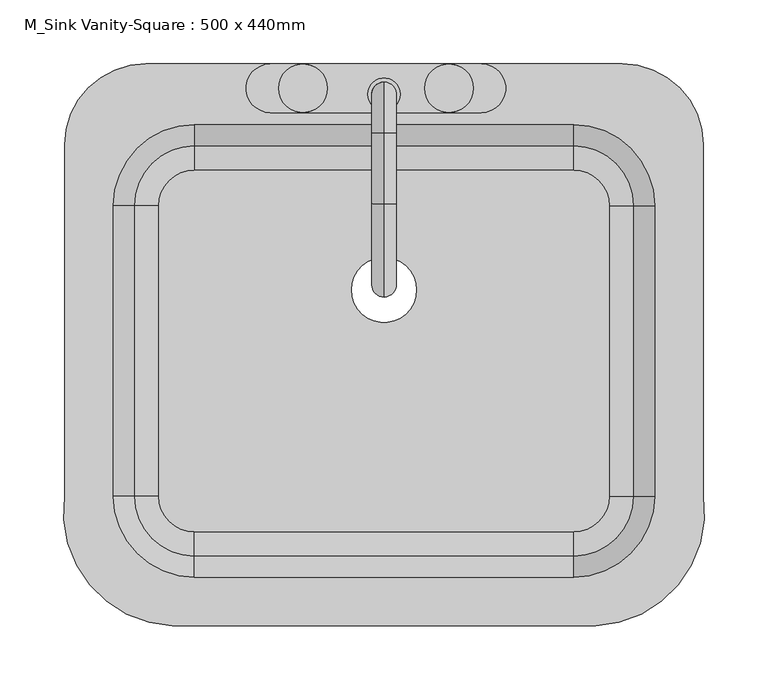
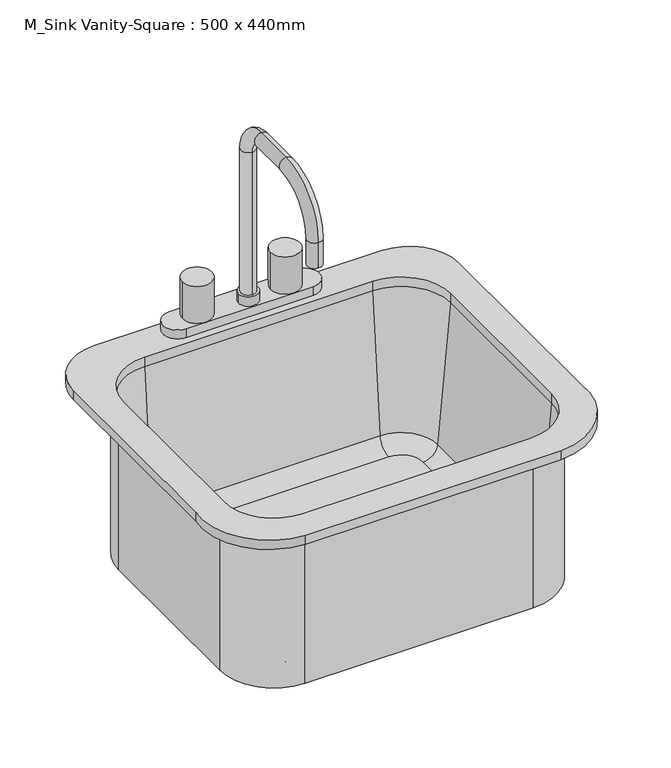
"""IFC4 building model written with IfcOpenShell, lengths in millimetres: flow terminal geometry, M_Sink Vanity-Square : 500 x 440mm."""

import ifcopenshell
import ifcopenshell.guid

model = None  # the IFC model being written
_history = None  # IfcOwnerHistory: only IFC2X3 demands one
_inside = {}  # id of a spatial element -> (the spatial element, [elements in it])
_under = {}  # id of a project, library or spatial element -> (it, [spatial elements below it])
_declared = {}  # id of a project -> (the project, [libraries it declares])
_typed = {}  # id of a type object -> (the type object, [elements of that type])
_made_of = {}  # id of a material, layer set ... -> (it, [elements and type objects made of it])


def new_model(schema):
    """Start an empty IFC model of exactly this schema.

    Asked for "IFC4X3", IfcOpenShell would pick the latest addendum, in which some entities
    have other attributes; the version numbers below select the first issue.
    IFC2X3 requires an IfcOwnerHistory on every rooted entity: one is made here for all.
    """
    global model, _history
    if schema == "IFC4X3":
        model = ifcopenshell.file(schema_version=(4, 3, 0, 0))
    else:
        model = ifcopenshell.file(schema=schema)
    _inside.clear()
    _under.clear()
    _declared.clear()
    _typed.clear()
    _made_of.clear()
    _history = None
    if model.schema == "IFC2X3":
        org = make("IfcOrganization", Name="unknown")
        user = make(
            "IfcPersonAndOrganization",
            ThePerson=make("IfcPerson", FamilyName="unknown"),
            TheOrganization=org,
        )
        app = make(
            "IfcApplication",
            ApplicationDeveloper=org,
            Version="unknown",
            ApplicationFullName="unknown",
            ApplicationIdentifier="unknown",
        )
        _history = make(
            "IfcOwnerHistory",
            OwningUser=user,
            OwningApplication=app,
            ChangeAction="ADDED",
            CreationDate=0,
        )
    return model


def make(cls, **values):
    """One entity of the class cls with the attributes given. An attribute that is None is left unset."""
    return model.create_entity(
        cls, **{name: value for name, value in values.items() if value is not None}
    )


def rooted(cls, **values):
    """An entity with a GlobalId (a new one), such as an element, a storey or a relation."""
    return make(cls, GlobalId=ifcopenshell.guid.new(), OwnerHistory=_history, **values)


def si_unit(unit_type, name, prefix=None):
    """IfcSIUnit, for example si_unit("LENGTHUNIT", "METRE", prefix="MILLI")."""
    return make("IfcSIUnit", UnitType=unit_type, Prefix=prefix, Name=name)


def assignment(units):
    """IfcUnitAssignment: the units of a project."""
    return None if units is None else make("IfcUnitAssignment", Units=units)


def point(xyz):
    """IfcCartesianPoint."""
    return None if xyz is None else make("IfcCartesianPoint", Coordinates=xyz)


def direction(xyz):
    """IfcDirection."""
    return None if xyz is None else make("IfcDirection", DirectionRatios=xyz)


def frame(location, z_axis=None, x_axis=None):
    """IfcAxis2Placement3D, a coordinate frame: its origin and axes. An axis left out is left unset."""
    return make(
        "IfcAxis2Placement3D",
        Location=point(location),
        Axis=direction(z_axis),
        RefDirection=direction(x_axis),
    )


def origin():
    """The frame at (0, 0, 0) with its axes left unset."""
    return frame((0.0, 0.0, 0.0))


def place(relative_to, where):
    """IfcLocalPlacement: puts the frame where relative to a parent placement (None: the world)."""
    return make(
        "IfcLocalPlacement", PlacementRelTo=relative_to, RelativePlacement=where
    )


def context(
    kind, dimensions, precision=None, world=None, true_north=None, identifier=None
):
    """IfcGeometricRepresentationContext, for example the 3D "Model" context."""
    return make(
        "IfcGeometricRepresentationContext",
        ContextIdentifier=identifier,
        ContextType=kind,
        CoordinateSpaceDimension=dimensions,
        Precision=precision,
        WorldCoordinateSystem=world,
        TrueNorth=true_north,
    )


def project(units=None, contexts=None):
    """IfcProject with its units and contexts."""
    return rooted(
        "IfcProject",
        Name="project",
        RepresentationContexts=contexts,
        UnitsInContext=assignment(units),
    )


def spatial(cls, under=None, at=None, **own):
    """A site, building, storey or space (cls), placed at a placement, below another one or the project."""
    s = rooted(cls, ObjectPlacement=at, **own)
    if under is not None:
        _under.setdefault(under.id(), (under, []))[1].append(s)
    return s


def polyline(points):
    """IfcPolyline through the points."""
    return make("IfcPolyline", Points=[point(p) for p in points])


def circle_curve(where, radius):
    """IfcCircle in the frame where."""
    return make("IfcCircle", Position=where, Radius=radius)


def ellipse_curve(where, semi_axis1, semi_axis2):
    """IfcEllipse in the frame where."""
    return make(
        "IfcEllipse", Position=where, SemiAxis1=semi_axis1, SemiAxis2=semi_axis2
    )


def trimmed(basis, trim1, trim2, sense, master):
    """IfcTrimmedCurve: the piece of a basis curve between two trims."""
    return make(
        "IfcTrimmedCurve",
        BasisCurve=basis,
        Trim1=trim1,
        Trim2=trim2,
        SenseAgreement=sense,
        MasterRepresentation=master,
    )


def shape(context_of_items, identifier, shape_type, items):
    """IfcShapeRepresentation: the items that make up one representation, for example the "Body"."""
    return make(
        "IfcShapeRepresentation",
        ContextOfItems=context_of_items,
        RepresentationIdentifier=identifier,
        RepresentationType=shape_type,
        Items=items,
    )


def source(mapping_origin, context_of_items, identifier, shape_type, items):
    """IfcRepresentationMap: a shape defined once, which mapped items show again and again."""
    return make(
        "IfcRepresentationMap",
        MappingOrigin=mapping_origin,
        MappedRepresentation=shape(context_of_items, identifier, shape_type, items),
    )


def transform(
    local_origin,
    x_axis=None,
    y_axis=None,
    z_axis=None,
    scale=None,
    scale2=None,
    scale3=None,
    uniform=True,
):
    """IfcCartesianTransformationOperator3D, or its non-uniform kind. x_axis, y_axis, z_axis: its Axis1, 2, 3."""
    if uniform:
        return make(
            "IfcCartesianTransformationOperator3D",
            Axis1=direction(x_axis),
            Axis2=direction(y_axis),
            LocalOrigin=point(local_origin),
            Scale=scale,
            Axis3=direction(z_axis),
        )
    return make(
        "IfcCartesianTransformationOperator3DnonUniform",
        Axis1=direction(x_axis),
        Axis2=direction(y_axis),
        LocalOrigin=point(local_origin),
        Scale=scale,
        Axis3=direction(z_axis),
        Scale2=scale2,
        Scale3=scale3,
    )


def mapped(mapping_source, mapping_target):
    """IfcMappedItem: shows the shape of a source again, moved by a transform."""
    return make(
        "IfcMappedItem", MappingSource=mapping_source, MappingTarget=mapping_target
    )


def made_of(thing, what):
    """Note that an element or type object is made of a material, layer set ...; save() writes the relation."""
    if what is not None:
        _made_of.setdefault(what.id(), (what, []))[1].append(thing)
    return thing


def element(
    cls,
    number,
    at=None,
    inside=None,
    cuts=None,
    type_object=None,
    material=None,
    context=None,
    identifier="Body",
    shape_type=None,
    held_by="IfcProductDefinitionShape",
    body=None,
    shapes=None,
    **own,
):
    """One element of the class cls, such as IfcWall. Its Tag is "e" and its number.

    at: its placement. inside: the storey or other place that contains it. cuts: it is an
    opening in that element (IfcRelVoidsElement). A single representation is given by context,
    identifier, shape_type and body (its items); several are given by shapes. held_by: the class
    of the entity that holds the representations. save() writes the other relations.
    """
    e = rooted(cls, Tag="e%d" % number, ObjectPlacement=at, **own)
    if body is not None:
        shapes = [shape(context, identifier, shape_type, body)]
    if shapes is not None:
        e.Representation = make(held_by, Representations=shapes)
    if inside is not None:
        _inside.setdefault(inside.id(), (inside, []))[1].append(e)
    if cuts is not None:
        rooted(
            "IfcRelVoidsElement", RelatingBuildingElement=cuts, RelatedOpeningElement=e
        )
    if type_object is not None:
        _typed.setdefault(type_object.id(), (type_object, []))[1].append(e)
    return made_of(e, material)


def aggregate(whole, parts):
    """IfcRelAggregates: a whole, such as a stair, and the parts it consists of."""
    return rooted("IfcRelAggregates", RelatingObject=whole, RelatedObjects=parts)


def save(model, path):
    """Write the relations noted so far, then the file.

    IfcRelAggregates (storeys below a building ...), IfcRelContainedInSpatialStructure (elements
    in a storey), IfcRelDefinesByType, IfcRelAssociatesMaterial and IfcRelDeclares: one each for
    every whole, place, type object, material and project.
    """
    for whole, parts in _under.values():
        aggregate(whole, parts)
    for where, things in _inside.values():
        rooted(
            "IfcRelContainedInSpatialStructure",
            RelatedElements=things,
            RelatingStructure=where,
        )
    for kind, things in _typed.values():
        rooted("IfcRelDefinesByType", RelatedObjects=things, RelatingType=kind)
    for what, things in _made_of.values():
        rooted("IfcRelAssociatesMaterial", RelatedObjects=things, RelatingMaterial=what)
    for by, libraries in _declared.values():
        rooted("IfcRelDeclares", RelatingContext=by, RelatedDefinitions=libraries)
    model.write(path)


def plane_surface(at):
    """IfcPlane: the flat surface through the origin of the frame at, square to its z axis."""
    return make("IfcPlane", Position=at)


def cylinder_surface(at, radius):
    """IfcCylindricalSurface: all points at the distance radius from the z axis of the frame at."""
    return make("IfcCylindricalSurface", Position=at, Radius=radius)


def revolved_surface(curve, axis_point, axis_direction):
    """IfcSurfaceOfRevolution: the curve turned about the line through axis_point along axis_direction."""
    return make(
        "IfcSurfaceOfRevolution",
        SweptCurve=make("IfcArbitraryOpenProfileDef", ProfileType="CURVE", Curve=curve),
        AxisPosition=make("IfcAxis1Placement", Location=point(axis_point), Axis=direction(axis_direction)),
    )


def advanced_brep(points, edges, surfaces, faces):
    """IfcAdvancedBrep: a solid bounded by faces that lie on surfaces and meet in shared edges.

    An edge is (start, end): straight between two places in points (the first is 0);
    or (start, end, curve); or (start, end, curve, False) where it runs against its curve.
    A face is (place in surfaces, loops), or (place, loops, False) where it looks against
    its surface's normal. A loop lists edges by number (the first is 1), with a minus sign
    where the edge is run from its end to its start. The first loop is the outer one.
    """
    corners = [point(p) for p in points]
    vertices = [make("IfcVertexPoint", VertexGeometry=c) for c in corners]
    made = []
    for start, end, *more in edges:
        made.append(
            make(
                "IfcEdgeCurve",
                EdgeStart=vertices[start],
                EdgeEnd=vertices[end],
                EdgeGeometry=more[0] if more else make("IfcPolyline", Points=[corners[start], corners[end]]),
                SameSense=more[1] if len(more) > 1 else True,
            )
        )
    hull = []
    for where, loops, *sense in faces:
        bounds = []
        for j, loop in enumerate(loops):
            ring = [make("IfcOrientedEdge", EdgeElement=made[abs(k) - 1], Orientation=k > 0) for k in loop]
            bounds.append(
                make(
                    "IfcFaceOuterBound" if j == 0 else "IfcFaceBound",
                    Bound=make("IfcEdgeLoop", EdgeList=ring),
                    Orientation=True,
                )
            )
        hull.append(make("IfcAdvancedFace", Bounds=bounds, FaceSurface=surfaces[where], SameSense=sense[0] if sense else True))
    return make("IfcAdvancedBrep", Outer=make("IfcClosedShell", CfsFaces=hull))


def m_sink_vanity_square_500_x_440mm_1e229b74(model_context):
    return source(origin(), model_context, "Body", "AdvancedBrep", [
        advanced_brep(
        [(233.9392406, 69.0204011, 534.1), (164.0892406, 138.8704011, 534.1), (164.0892406, 138.8704011, 750.0), (233.9392406, 69.0204011, 750.0), (233.9392406, -158.2545989, 534.1), (164.0892406, -228.1045989, 534.1), (-132.7107594, -228.1045989, 534.1), (-202.5607594, -158.2545989, 534.1), (-202.5607594, 69.0204011, 534.1), (-132.7107594, 138.8704011, 534.1), (-9.7107594, 3.175, 534.1), (41.0892406, 3.175, 534.1), (192.0776588, 69.0204011, 543.625), (164.0892406, 97.0088193, 543.625), (-132.7107594, 97.0088193, 543.625), (-160.6991776, 69.0204011, 543.625), (-160.6991776, -158.2545989, 543.625), (-132.7107594, -186.2430171, 543.625), (164.0892406, -186.2430171, 543.625), (192.0776588, -158.2545989, 543.625), (-9.7107594, 3.175, 543.625), (41.0892406, 3.175, 543.625), (211.0551678, 69.0204011, 561.0146831), (164.0892406, 115.9863283, 561.0146831), (227.5892406, 69.0204011, 750.0), (164.0892406, 132.5204011, 750.0), (233.9392406, -158.2545989, 750.0), (211.0551678, -158.2545989, 561.0146831), (227.5892406, -158.2545989, 750.0), (164.0892406, -228.1045989, 750.0), (164.0892406, -205.2205261, 561.0146831), (164.0892406, -221.7545989, 750.0), (-132.7107594, -228.1045989, 750.0), (-132.7107594, -205.2205261, 561.0146831), (-132.7107594, -221.7545989, 750.0), (-202.5607594, -158.2545989, 750.0), (-179.6766866, -158.2545989, 561.0146831), (-196.2107594, -158.2545989, 750.0), (-202.5607594, 69.0204011, 750.0), (-179.6766866, 69.0204011, 561.0146831), (-196.2107594, 69.0204011, 750.0), (-132.7107594, 138.8704011, 750.0), (-132.7107594, 115.9863283, 561.0146831), (-132.7107594, 132.5204011, 750.0), (-149.9606923, -259.8545989, 762.7), (181.3391735, -259.8545989, 762.7), (265.6892406, -158.2545989, 762.7), (265.6892406, 116.6454011, 762.7), (202.1892406, 180.1454011, 762.7), (-170.8107593, 180.1454011, 762.7), (-234.3107593, 116.6454011, 762.7), (-234.3107593, -158.2545982, 762.7), (164.0892406, 132.5204011, 762.7), (227.5892406, 69.0204011, 762.7), (227.5892406, -158.2545989, 762.7), (164.0892406, -221.7545989, 762.7), (-132.7107594, -221.7545989, 762.7), (-196.2107594, -158.2545989, 762.7), (-196.2107594, 69.0204011, 762.7), (-132.7107594, 132.5204011, 762.7), (-149.9606923, -259.8545989, 750.0), (-234.3107593, -158.2545982, 750.0), (-234.3107593, 116.6454011, 750.0), (-170.8107593, 180.1454011, 750.0), (202.1892406, 180.1454011, 750.0), (265.6892406, 116.6454011, 750.0), (265.6892406, -158.2545989, 750.0), (181.3391735, -259.8545989, 750.0)],
        [
            (0, 1, circle_curve(frame((164.0892406, 69.0204011, 534.1), z_axis=(0.0, 0.0, 1.0), x_axis=(0.0, 1.0, 0.0)), 69.85)),
            (1, 2),
            (2, 3, circle_curve(frame((164.0892406, 69.0204011, 750.0), z_axis=(0.0, 0.0, -1.0), x_axis=(0.0, 1.0, 0.0)), 69.85)),
            (3, 0),
            (0, 4),
            (4, 5, circle_curve(frame((164.0892406, -158.2545989, 534.1), z_axis=(0.0, 0.0, -1.0), x_axis=(1.0, 0.0, 0.0)), 69.85)),
            (5, 6),
            (6, 7, circle_curve(frame((-132.7107594, -158.2545989, 534.1), z_axis=(0.0, 0.0, -1.0), x_axis=(0.0, -1.0, 0.0)), 69.85)),
            (7, 8),
            (8, 9, circle_curve(frame((-132.7107594, 69.0204011, 534.1), z_axis=(0.0, 0.0, -1.0), x_axis=(-1.0, 0.0, 0.0)), 69.85)),
            (9, 1),
            (10, 11, circle_curve(frame((15.6892406, 3.175, 534.1), z_axis=(0.0, 0.0, 1.0), x_axis=(1.0, 0.0, 0.0)), 25.4)),
            (11, 10, circle_curve(frame((15.6892406, 3.175, 534.1), z_axis=(0.0, 0.0, 1.0), x_axis=(1.0, 0.0, 0.0)), 25.4)),
            (12, 13, circle_curve(frame((164.0892406, 69.0204011, 543.625), z_axis=(0.0, 0.0, 1.0), x_axis=(0.0, 1.0, 0.0)), 27.9884182)),
            (13, 14),
            (14, 15, circle_curve(frame((-132.7107594, 69.0204011, 543.625), z_axis=(0.0, 0.0, 1.0), x_axis=(-1.0, 0.0, 0.0)), 27.9884182)),
            (15, 16),
            (16, 17, circle_curve(frame((-132.7107594, -158.2545989, 543.625), z_axis=(0.0, 0.0, 1.0), x_axis=(0.0, -1.0, 0.0)), 27.9884182)),
            (17, 18),
            (18, 19, circle_curve(frame((164.0892406, -158.2545989, 543.625), z_axis=(0.0, 0.0, 1.0), x_axis=(1.0, 0.0, 0.0)), 27.9884182)),
            (19, 12),
            (20, 21, circle_curve(frame((15.6892406, 3.175, 543.625), z_axis=(0.0, 0.0, -1.0), x_axis=(1.0, 0.0, 0.0)), 25.4)),
            (21, 20, circle_curve(frame((15.6892406, 3.175, 543.625), z_axis=(0.0, 0.0, -1.0), x_axis=(1.0, 0.0, 0.0)), 25.4)),
            (12, 22, circle_curve(frame((192.0776588, 69.0204011, 562.675), z_axis=(0.0, -1.0, 0.0), x_axis=(1.0, 0.0, 0.0)), 19.05)),
            (22, 23, circle_curve(frame((164.0892406, 69.0204011, 561.0146831), z_axis=(0.0, 0.0, 1.0), x_axis=(0.0, 1.0, 0.0)), 46.9659272)),
            (23, 13, circle_curve(frame((164.0892406, 97.0088193, 562.675), z_axis=(-1.0, 0.0, 0.0), x_axis=(0.0, 1.0, 0.0)), 19.05)),
            (22, 24),
            (24, 25, circle_curve(frame((164.0892406, 69.0204011, 750.0), z_axis=(0.0, 0.0, 1.0), x_axis=(0.0, 1.0, 0.0)), 63.5)),
            (25, 23),
            (3, 26),
            (26, 4),
            (19, 27, circle_curve(frame((192.0776588, -158.2545989, 562.675), z_axis=(0.0, -1.0, 0.0), x_axis=(1.0, 0.0, 0.0)), 19.05)),
            (27, 22),
            (27, 28),
            (28, 24),
            (26, 29, circle_curve(frame((164.0892406, -158.2545989, 750.0), z_axis=(0.0, 0.0, -1.0), x_axis=(1.0, 0.0, 0.0)), 69.85)),
            (29, 5),
            (18, 30, circle_curve(frame((164.0892406, -186.2430171, 562.675), z_axis=(-1.0, 0.0, 0.0), x_axis=(0.0, -1.0, 0.0)), 19.05)),
            (30, 27, circle_curve(frame((164.0892406, -158.2545989, 561.0146831), z_axis=(0.0, 0.0, 1.0), x_axis=(1.0, 0.0, 0.0)), 46.9659272)),
            (30, 31),
            (31, 28, circle_curve(frame((164.0892406, -158.2545989, 750.0), z_axis=(0.0, 0.0, 1.0), x_axis=(1.0, 0.0, 0.0)), 63.5)),
            (29, 32),
            (32, 6),
            (17, 33, circle_curve(frame((-132.7107594, -186.2430171, 562.675), z_axis=(-1.0, 0.0, 0.0), x_axis=(0.0, -1.0, 0.0)), 19.05)),
            (33, 30),
            (33, 34),
            (34, 31),
            (32, 35, circle_curve(frame((-132.7107594, -158.2545989, 750.0), z_axis=(0.0, 0.0, -1.0), x_axis=(0.0, -1.0, 0.0)), 69.85)),
            (35, 7),
            (16, 36, circle_curve(frame((-160.6991776, -158.2545989, 562.675), z_axis=(0.0, 1.0, 0.0), x_axis=(-1.0, 0.0, 0.0)), 19.05)),
            (36, 33, circle_curve(frame((-132.7107594, -158.2545989, 561.0146831), z_axis=(0.0, 0.0, 1.0), x_axis=(0.0, -1.0, 0.0)), 46.9659272)),
            (36, 37),
            (37, 34, circle_curve(frame((-132.7107594, -158.2545989, 750.0), z_axis=(0.0, 0.0, 1.0), x_axis=(0.0, -1.0, 0.0)), 63.5)),
            (35, 38),
            (38, 8),
            (15, 39, circle_curve(frame((-160.6991776, 69.0204011, 562.675), z_axis=(0.0, 1.0, 0.0), x_axis=(-1.0, 0.0, 0.0)), 19.05)),
            (39, 36),
            (39, 40),
            (40, 37),
            (38, 41, circle_curve(frame((-132.7107594, 69.0204011, 750.0), z_axis=(0.0, 0.0, -1.0), x_axis=(-1.0, 0.0, 0.0)), 69.85)),
            (41, 9),
            (14, 42, circle_curve(frame((-132.7107594, 97.0088193, 562.675), z_axis=(1.0, 0.0, 0.0), x_axis=(0.0, 1.0, 0.0)), 19.05)),
            (42, 39, circle_curve(frame((-132.7107594, 69.0204011, 561.0146831), z_axis=(0.0, 0.0, 1.0), x_axis=(-1.0, 0.0, 0.0)), 46.9659272)),
            (42, 43),
            (43, 40, circle_curve(frame((-132.7107594, 69.0204011, 750.0), z_axis=(0.0, 0.0, 1.0), x_axis=(-1.0, 0.0, 0.0)), 63.5)),
            (41, 2),
            (23, 42),
            (25, 43),
            (20, 10),
            (11, 21),
            (44, 45),
            (45, 46, circle_curve(frame((177.5319557, -170.8793432, 762.7), z_axis=(0.0, 0.0, 1.0), x_axis=(1.0, 0.0, 0.0)), 89.0566732)),
            (46, 47),
            (47, 48, circle_curve(frame((202.1892406, 116.6454011, 762.7), z_axis=(0.0, 0.0, 1.0), x_axis=(1.0, 0.0, 0.0)), 63.5)),
            (48, 49),
            (49, 50, circle_curve(frame((-170.8107593, 116.6454011, 762.7), z_axis=(0.0, 0.0, 1.0), x_axis=(1.0, 0.0, 0.0)), 63.5)),
            (50, 51),
            (51, 44, circle_curve(frame((-146.1534746, -170.8793432, 762.7), z_axis=(0.0, 0.0, 1.0), x_axis=(1.0, 0.0, 0.0)), 89.0566732)),
            (52, 53, circle_curve(frame((164.0892406, 69.0204011, 762.7), z_axis=(0.0, 0.0, -1.0), x_axis=(1.0, 0.0, 0.0)), 63.5)),
            (53, 54),
            (54, 55, circle_curve(frame((164.0892406, -158.2545989, 762.7), z_axis=(0.0, 0.0, -1.0), x_axis=(1.0, 0.0, 0.0)), 63.5)),
            (55, 56),
            (56, 57, circle_curve(frame((-132.7107594, -158.2545989, 762.7), z_axis=(0.0, 0.0, -1.0), x_axis=(1.0, 0.0, 0.0)), 63.5)),
            (57, 58),
            (58, 59, circle_curve(frame((-132.7107594, 69.0204011, 762.7), z_axis=(0.0, 0.0, -1.0), x_axis=(1.0, 0.0, 0.0)), 63.5)),
            (59, 52),
            (60, 61, circle_curve(frame((-146.1534746, -170.8793432, 750.0), z_axis=(0.0, 0.0, -1.0), x_axis=(1.0, 0.0, 0.0)), 89.0566732)),
            (61, 62),
            (62, 63, circle_curve(frame((-170.8107593, 116.6454011, 750.0), z_axis=(0.0, 0.0, -1.0), x_axis=(1.0, 0.0, 0.0)), 63.5)),
            (63, 64),
            (64, 65, circle_curve(frame((202.1892406, 116.6454011, 750.0), z_axis=(0.0, 0.0, -1.0), x_axis=(1.0, 0.0, 0.0)), 63.5)),
            (65, 66),
            (66, 67, circle_curve(frame((177.5319557, -170.8793432, 750.0), z_axis=(0.0, 0.0, -1.0), x_axis=(1.0, 0.0, 0.0)), 89.0566732)),
            (67, 60),
            (44, 60),
            (67, 45),
            (66, 46),
            (65, 47),
            (64, 48),
            (63, 49),
            (62, 50),
            (61, 51),
            (52, 25),
            (24, 53),
            (28, 54),
            (31, 55),
            (34, 56),
            (37, 57),
            (40, 58),
            (43, 59),
        ],
        [
            cylinder_surface(frame((164.0892406, 69.0204011, 0.0), z_axis=(0.0, 0.0, -1.0), x_axis=(0.0, 1.0, 0.0)), 69.85),
            plane_surface(frame((164.0892406, 69.0204011, 534.1), z_axis=(0.0, 0.0, -1.0), x_axis=(0.0, 1.0, 0.0))),
            plane_surface(frame((164.0892406, 69.0204011, 543.625), z_axis=(0.0, 0.0, 1.0), x_axis=(0.0, 1.0, 0.0))),
            revolved_surface(trimmed(ellipse_curve(frame((164.0892406, 97.0088193, 562.675), z_axis=(1.0, 0.0, 0.0), x_axis=(0.0, 1.0, 0.0)), 19.05, 19.05), [point((164.0892406, 97.0088193, 543.625))], [point((164.0892406, 115.9863283, 561.0146831))], True, "CARTESIAN"), (164.0892406, 69.0204011, 0.0), (0.0, 0.0, -1.0)),
            revolved_surface(polyline([(164.0892406, 115.9863283, 561.0146831), (164.0892406, 132.5204011, 750.0)]), (164.0892406, 69.0204011, 0.0), (0.0, 0.0, -1.0)),
            plane_surface(frame((233.9392406, 69.0204011, 750.0), z_axis=(1.0, 0.0, 0.0), x_axis=(0.0, -1.0, 0.0))),
            revolved_surface(polyline([(211.1276588, -158.25459889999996, 562.675), (211.1276588, 69.0204011, 562.675)]), (192.0776588, 69.0204011, 562.675), (0.0, -1.0, 0.0)),
            plane_surface(frame((211.0551678, 69.0204011, 561.0146831), z_axis=(-0.9961946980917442, 0.0, 0.0871557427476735), x_axis=(0.0, -1.0, 0.0))),
            cylinder_surface(frame((164.0892406, -158.2545989, 0.0), z_axis=(0.0, 0.0, -1.0), x_axis=(1.0, 0.0, 0.0)), 69.85),
            revolved_surface(trimmed(ellipse_curve(frame((192.0776588, -158.2545989, 562.675), z_axis=(0.0, -1.0, 0.0), x_axis=(1.0, 0.0, 0.0)), 19.05, 19.05), [point((192.0776588, -158.2545989, 543.625))], [point((211.0551678, -158.2545989, 561.0146831))], True, "CARTESIAN"), (164.0892406, -158.2545989, 0.0), (0.0, 0.0, -1.0)),
            revolved_surface(polyline([(211.0551678, -158.2545989, 561.0146831), (227.5892406, -158.2545989, 750.0)]), (164.0892406, -158.2545989, 0.0), (0.0, 0.0, -1.0)),
            plane_surface(frame((164.0892406, -228.1045989, 750.0), z_axis=(0.0, -1.0, 0.0), x_axis=(-1.0, 0.0, 0.0))),
            revolved_surface(polyline([(-132.7107594, -205.29301710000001, 562.675), (164.0892406, -205.29301710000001, 562.675)]), (164.0892406, -186.2430171, 562.675), (-1.0, 0.0, 0.0)),
            plane_surface(frame((164.0892406, -205.2205261, 561.0146831), z_axis=(0.0, 0.9961946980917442, 0.0871557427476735), x_axis=(-1.0, 0.0, 0.0))),
            cylinder_surface(frame((-132.7107594, -158.2545989, 0.0), z_axis=(0.0, 0.0, -1.0), x_axis=(0.0, -1.0, 0.0)), 69.85),
            revolved_surface(trimmed(ellipse_curve(frame((-132.7107594, -186.2430171, 562.675), z_axis=(-1.0, 0.0, 0.0), x_axis=(0.0, -1.0, 0.0)), 19.05, 19.05), [point((-132.7107594, -186.2430171, 543.625))], [point((-132.7107594, -205.2205261, 561.0146831))], True, "CARTESIAN"), (-132.7107594, -158.2545989, 0.0), (0.0, 0.0, -1.0)),
            revolved_surface(polyline([(-132.7107594, -205.2205261, 561.0146831), (-132.7107594, -221.7545989, 750.0)]), (-132.7107594, -158.2545989, 0.0), (0.0, 0.0, -1.0)),
            plane_surface(frame((-202.5607594, -158.2545989, 750.0), z_axis=(-1.0, 0.0, 0.0), x_axis=(0.0, 1.0, 0.0))),
            revolved_surface(polyline([(-179.74917760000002, 69.02040109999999, 562.675), (-179.74917760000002, -158.2545989, 562.675)]), (-160.6991776, -158.2545989, 562.675), (0.0, 1.0, 0.0)),
            plane_surface(frame((-179.6766866, -158.2545989, 561.0146831), z_axis=(0.9961946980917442, 0.0, 0.0871557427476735), x_axis=(0.0, 1.0, 0.0))),
            cylinder_surface(frame((-132.7107594, 69.0204011, 0.0), z_axis=(0.0, 0.0, -1.0), x_axis=(-1.0, 0.0, 0.0)), 69.85),
            revolved_surface(trimmed(ellipse_curve(frame((-160.6991776, 69.0204011, 562.675), z_axis=(0.0, 1.0, 0.0), x_axis=(-1.0, 0.0, 0.0)), 19.05, 19.05), [point((-160.6991776, 69.0204011, 543.625))], [point((-179.6766866, 69.0204011, 561.0146831))], True, "CARTESIAN"), (-132.7107594, 69.0204011, 0.0), (0.0, 0.0, -1.0)),
            revolved_surface(polyline([(-179.6766866, 69.0204011, 561.0146831), (-196.2107594, 69.0204011, 750.0)]), (-132.7107594, 69.0204011, 0.0), (0.0, 0.0, -1.0)),
            plane_surface(frame((-132.7107594, 138.8704011, 750.0), z_axis=(0.0, 1.0, 0.0), x_axis=(1.0, 0.0, 0.0))),
            revolved_surface(polyline([(164.0892406, 116.0588193, 562.675), (-132.7107594, 116.0588193, 562.675)]), (-132.7107594, 97.0088193, 562.675), (1.0, 0.0, 0.0)),
            plane_surface(frame((-132.7107594, 115.9863283, 561.0146831), z_axis=(0.0, -0.9961946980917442, 0.0871557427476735), x_axis=(1.0, 0.0, 0.0))),
            revolved_surface(polyline([(41.0892406, 3.175, 534.1), (41.0892406, 3.175, 543.625)]), (15.6892406, 3.175, 0.0), (0.0, 0.0, -1.0)),
            plane_surface(frame((181.3391735, -259.8545989, 762.7), z_axis=(0.0, 0.0, 1.0), x_axis=(1.0, 0.0, 0.0))),
            plane_surface(frame((181.3391735, -259.8545989, 750.0), z_axis=(0.0, 0.0, -1.0), x_axis=(-1.0, 0.0, 0.0))),
            plane_surface(frame((-149.9606923, -259.8545989, 762.7), z_axis=(0.0, -1.0, 0.0), x_axis=(0.0, 0.0, -1.0))),
            cylinder_surface(frame((177.5319557, -170.8793432, 750.0), z_axis=(0.0, 0.0, 1.0), x_axis=(1.0, 0.0, 0.0)), 89.0566732),
            plane_surface(frame((265.6892406, -158.2545989, 762.7), z_axis=(1.0, 0.0, 0.0), x_axis=(0.0, 0.0, -1.0))),
            cylinder_surface(frame((202.1892406, 116.6454011, 750.0), z_axis=(0.0, 0.0, 1.0), x_axis=(1.0, 0.0, 0.0)), 63.5),
            plane_surface(frame((202.1892406, 180.1454011, 762.7), z_axis=(0.0, 1.0, 0.0), x_axis=(0.0, 0.0, -1.0))),
            cylinder_surface(frame((-170.8107593, 116.6454011, 750.0), z_axis=(0.0, 0.0, 1.0), x_axis=(1.0, 0.0, 0.0)), 63.5),
            plane_surface(frame((-234.3107593, 116.6454011, 762.7), z_axis=(-1.0, 0.0, 0.0), x_axis=(0.0, 0.0, -1.0))),
            cylinder_surface(frame((-146.1534746, -170.8793432, 750.0), z_axis=(0.0, 0.0, 1.0), x_axis=(1.0, 0.0, 0.0)), 89.0566732),
            revolved_surface(polyline([(227.5892406, 69.0204011, 750.0), (227.5892406, 69.0204011, 762.7)]), (164.0892406, 69.0204011, 0.0), (0.0, 0.0, -1.0)),
            plane_surface(frame((227.5892406, 69.0204011, 762.7), z_axis=(-1.0, 0.0, 0.0), x_axis=(0.0, 0.0, -1.0))),
            revolved_surface(polyline([(227.5892406, -158.2545989, 750.0), (227.5892406, -158.2545989, 762.7)]), (164.0892406, -158.2545989, 0.0), (0.0, 0.0, -1.0)),
            plane_surface(frame((164.0892406, -221.7545989, 762.7), z_axis=(0.0, 1.0, 0.0), x_axis=(0.0, 0.0, -1.0))),
            revolved_surface(polyline([(-69.2107594, -158.2545989, 750.0), (-69.2107594, -158.2545989, 762.7)]), (-132.7107594, -158.2545989, 0.0), (0.0, 0.0, -1.0)),
            plane_surface(frame((-196.2107594, -158.2545989, 762.7), z_axis=(1.0, 0.0, 0.0), x_axis=(0.0, 0.0, -1.0))),
            revolved_surface(polyline([(-69.2107594, 69.0204011, 750.0), (-69.2107594, 69.0204011, 762.7)]), (-132.7107594, 69.0204011, 0.0), (0.0, 0.0, -1.0)),
            plane_surface(frame((-132.7107594, 132.5204011, 762.7), z_axis=(0.0, -1.0, 0.0), x_axis=(0.0, 0.0, -1.0))),
        ],
        [
            (0, [[1, 2, 3, 4]]),
            (1, [[-1, 5, 6, 7, 8, 9, 10, 11], [12, 13]]),
            (2, [[14, 15, 16, 17, 18, 19, 20, 21], [22, 23]]),
            (3, [[-14, 24, 25, 26]]),
            (4, [[-25, 27, 28, 29]]),
            (5, [[-4, 30, 31, -5]]),
            (6, [[-24, -21, 32, 33]]),
            (7, [[-27, -33, 34, 35]]),
            (8, [[-31, 36, 37, -6]]),
            (9, [[-32, -20, 38, 39]]),
            (10, [[-34, -39, 40, 41]]),
            (11, [[-37, 42, 43, -7]]),
            (12, [[-38, -19, 44, 45]]),
            (13, [[-40, -45, 46, 47]]),
            (14, [[-43, 48, 49, -8]]),
            (15, [[-44, -18, 50, 51]]),
            (16, [[-46, -51, 52, 53]]),
            (17, [[-49, 54, 55, -9]]),
            (18, [[-50, -17, 56, 57]]),
            (19, [[-52, -57, 58, 59]]),
            (20, [[-55, 60, 61, -10]]),
            (21, [[-56, -16, 62, 63]]),
            (22, [[-58, -63, 64, 65]]),
            (23, [[-2, -11, -61, 66]]),
            (24, [[-26, 67, -62, -15]]),
            (25, [[-29, 68, -64, -67]]),
            (26, [[-22, 69, -13, 70]]),
            (26, [[-23, -70, -12, -69]]),
            (27, [[71, 72, 73, 74, 75, 76, 77, 78], [79, 80, 81, 82, 83, 84, 85, 86]]),
            (28, [[87, 88, 89, 90, 91, 92, 93, 94], [-3, -66, -60, -54, -48, -42, -36, -30]]),
            (29, [[-71, 95, -94, 96]]),
            (30, [[-72, -96, -93, 97]]),
            (31, [[-73, -97, -92, 98]]),
            (32, [[-74, -98, -91, 99]]),
            (33, [[-75, -99, -90, 100]]),
            (34, [[-76, -100, -89, 101]]),
            (35, [[-77, -101, -88, 102]]),
            (36, [[-78, -102, -87, -95]]),
            (37, [[-79, 103, -28, 104]]),
            (38, [[-80, -104, -35, 105]]),
            (39, [[-81, -105, -41, 106]]),
            (40, [[-82, -106, -47, 107]]),
            (41, [[-83, -107, -53, 108]]),
            (42, [[-84, -108, -59, 109]]),
            (43, [[-85, -109, -65, 110]]),
            (44, [[-86, -110, -68, -103]]),
        ],
    ),
        advanced_brep(
        [(91.8892406, 180.1454011, 762.7), (91.8892406, 142.0454011, 762.7), (66.4892406, 142.0454011, 762.7), (-47.8107594, 142.0454011, 762.7), (-73.2107594, 142.0454011, 762.7), (-73.2107594, 180.1454011, 762.7), (-47.8107594, 180.1454011, 762.7), (66.4892406, 180.1454011, 762.7), (15.6892406, 165.8579011, 983.3625), (15.6892406, 146.8079011, 983.3625), (15.6892406, 146.8079011, 788.1), (15.6892406, 165.8579011, 788.1), (15.6892406, 126.1704011, 1023.05), (15.6892406, 126.1704011, 1004.0), (15.6892406, 70.6079011, 1023.05), (15.6892406, 70.6079011, 1004.0), (15.6892406, -2.4170989, 950.025), (15.6892406, 16.6329011, 950.025), (15.6892406, -2.4170989, 915.1), (15.6892406, 16.6329011, 915.1), (2.9892406, 156.3329011, 788.1), (28.3892406, 156.3329011, 788.1), (2.9892406, 156.3329011, 775.2), (28.3892406, 156.3329011, 775.2), (-73.2107594, 180.1454011, 775.2), (-73.2107594, 142.0454011, 775.2), (-47.8107594, 142.0454011, 775.2), (-66.8607594, 161.0954011, 775.2), (-47.8107594, 180.1454011, 775.2), (91.8892406, 142.0454011, 775.2), (91.8892406, 180.1454011, 775.2), (66.4892406, 180.1454011, 775.2), (85.5392406, 161.0954011, 775.2), (66.4892406, 142.0454011, 775.2), (-28.7607594, 161.0954011, 775.2), (47.4392406, 161.0954011, 775.2), (-66.8607594, 161.0954011, 826.2), (-28.7607594, 161.0954011, 826.2), (47.4392406, 161.0954011, 826.2), (85.5392406, 161.0954011, 826.2)],
        [
            (0, 1, circle_curve(frame((91.8892406, 161.0954011, 762.7), z_axis=(0.0, 0.0, -1.0), x_axis=(1.0, 0.0, 0.0)), 19.05)),
            (1, 2),
            (2, 3),
            (3, 4),
            (4, 5, circle_curve(frame((-73.2107594, 161.0954011, 762.7), z_axis=(0.0, 0.0, -1.0), x_axis=(1.0, 0.0, 0.0)), 19.05)),
            (5, 6),
            (6, 7),
            (7, 0),
            (8, 9, circle_curve(frame((15.6892406, 156.3329011, 983.3625), z_axis=(0.0, 0.0, -1.0), x_axis=(0.0, -1.0, 0.0)), 9.525)),
            (9, 10),
            (10, 11, circle_curve(frame((15.6892406, 156.3329011, 788.1), z_axis=(0.0, 0.0, 1.0), x_axis=(0.0, -1.0, 0.0)), 9.525)),
            (11, 8),
            (9, 8, circle_curve(frame((15.6892406, 156.3329011, 983.3625), z_axis=(0.0, 0.0, -1.0), x_axis=(0.0, -1.0, 0.0)), 9.525)),
            (11, 10, circle_curve(frame((15.6892406, 156.3329011, 788.1), z_axis=(0.0, 0.0, 1.0), x_axis=(0.0, -1.0, 0.0)), 9.525)),
            (8, 12, circle_curve(frame((15.6892406, 126.1704011, 983.3625), z_axis=(1.0, 0.0, 0.0), x_axis=(0.0, 1.0, 0.0)), 39.6875)),
            (12, 13, circle_curve(frame((15.6892406, 126.1704011, 1013.525), z_axis=(0.0, 1.0, 0.0), x_axis=(0.0, 0.0, -1.0)), 9.525)),
            (13, 9, circle_curve(frame((15.6892406, 126.1704011, 983.3625), z_axis=(-1.0, 0.0, 0.0), x_axis=(0.0, 1.0, 0.0)), 20.6375)),
            (13, 12, circle_curve(frame((15.6892406, 126.1704011, 1013.525), z_axis=(0.0, 1.0, 0.0), x_axis=(0.0, 0.0, -1.0)), 9.525)),
            (12, 14),
            (14, 15, circle_curve(frame((15.6892406, 70.6079011, 1013.525), z_axis=(0.0, 1.0, 0.0), x_axis=(0.0, 0.0, -1.0)), 9.525)),
            (15, 13),
            (15, 14, circle_curve(frame((15.6892406, 70.6079011, 1013.525), z_axis=(0.0, 1.0, 0.0), x_axis=(0.0, 0.0, -1.0)), 9.525)),
            (14, 16, circle_curve(frame((15.6892406, 70.6079011, 950.025), z_axis=(1.0, 0.0, 0.0), x_axis=(0.0, 0.0, 1.0)), 73.025)),
            (16, 17, circle_curve(frame((15.6892406, 7.1079011, 950.025), z_axis=(0.0, 0.0, 1.0), x_axis=(0.0, 1.0, 0.0)), 9.525)),
            (17, 15, circle_curve(frame((15.6892406, 70.6079011, 950.025), z_axis=(-1.0, 0.0, 0.0), x_axis=(0.0, 0.0, 1.0)), 53.975)),
            (17, 16, circle_curve(frame((15.6892406, 7.1079011, 950.025), z_axis=(0.0, 0.0, 1.0), x_axis=(0.0, 1.0, 0.0)), 9.525)),
            (18, 19, circle_curve(frame((15.6892406, 7.1079011, 915.1), z_axis=(0.0, 0.0, -1.0), x_axis=(0.0, 1.0, 0.0)), 9.525)),
            (19, 18, circle_curve(frame((15.6892406, 7.1079011, 915.1), z_axis=(0.0, 0.0, -1.0), x_axis=(0.0, 1.0, 0.0)), 9.525)),
            (16, 18),
            (19, 17),
            (20, 21, circle_curve(frame((15.6892406, 156.3329011, 788.1), z_axis=(0.0, 0.0, 1.0), x_axis=(1.0, 0.0, 0.0)), 12.7)),
            (21, 20, circle_curve(frame((15.6892406, 156.3329011, 788.1), z_axis=(0.0, 0.0, 1.0), x_axis=(1.0, 0.0, 0.0)), 12.7)),
            (20, 22),
            (22, 23, circle_curve(frame((15.6892406, 156.3329011, 775.2), z_axis=(0.0, 0.0, 1.0), x_axis=(1.0, 0.0, 0.0)), 12.7)),
            (23, 21),
            (23, 22, circle_curve(frame((15.6892406, 156.3329011, 775.2), z_axis=(0.0, 0.0, 1.0), x_axis=(1.0, 0.0, 0.0)), 12.7)),
            (24, 25, circle_curve(frame((-73.2107594, 161.0954011, 775.2), z_axis=(0.0, 0.0, 1.0), x_axis=(1.0, 0.0, 0.0)), 19.05)),
            (25, 26),
            (26, 27, circle_curve(frame((-47.8107594, 161.0954011, 775.2), z_axis=(0.0, 0.0, -1.0), x_axis=(1.0, 0.0, 0.0)), 19.05)),
            (27, 28, circle_curve(frame((-47.8107594, 161.0954011, 775.2), z_axis=(0.0, 0.0, -1.0), x_axis=(1.0, 0.0, 0.0)), 19.05)),
            (28, 24),
            (29, 30, circle_curve(frame((91.8892406, 161.0954011, 775.2), z_axis=(0.0, 0.0, 1.0), x_axis=(1.0, 0.0, 0.0)), 19.05)),
            (30, 31),
            (31, 32, circle_curve(frame((66.4892406, 161.0954011, 775.2), z_axis=(0.0, 0.0, -1.0), x_axis=(1.0, 0.0, 0.0)), 19.05)),
            (32, 33, circle_curve(frame((66.4892406, 161.0954011, 775.2), z_axis=(0.0, 0.0, -1.0), x_axis=(1.0, 0.0, 0.0)), 19.05)),
            (33, 29),
            (31, 28),
            (28, 34, circle_curve(frame((-47.8107594, 161.0954011, 775.2), z_axis=(0.0, 0.0, -1.0), x_axis=(1.0, 0.0, 0.0)), 19.05)),
            (34, 26, circle_curve(frame((-47.8107594, 161.0954011, 775.2), z_axis=(0.0, 0.0, -1.0), x_axis=(1.0, 0.0, 0.0)), 19.05)),
            (26, 33),
            (33, 35, circle_curve(frame((66.4892406, 161.0954011, 775.2), z_axis=(0.0, 0.0, -1.0), x_axis=(1.0, 0.0, 0.0)), 19.05)),
            (35, 31, circle_curve(frame((66.4892406, 161.0954011, 775.2), z_axis=(0.0, 0.0, -1.0), x_axis=(1.0, 0.0, 0.0)), 19.05)),
            (30, 0),
            (5, 24),
            (4, 25),
            (1, 29),
            (36, 37, circle_curve(frame((-47.8107594, 161.0954011, 826.2), z_axis=(0.0, 0.0, 1.0), x_axis=(1.0, 0.0, 0.0)), 19.05)),
            (37, 36, circle_curve(frame((-47.8107594, 161.0954011, 826.2), z_axis=(0.0, 0.0, 1.0), x_axis=(1.0, 0.0, 0.0)), 19.05)),
            (38, 39, circle_curve(frame((66.4892406, 161.0954011, 826.2), z_axis=(0.0, 0.0, 1.0), x_axis=(1.0, 0.0, 0.0)), 19.05)),
            (39, 38, circle_curve(frame((66.4892406, 161.0954011, 826.2), z_axis=(0.0, 0.0, 1.0), x_axis=(1.0, 0.0, 0.0)), 19.05)),
            (36, 27),
            (34, 37),
            (38, 35),
            (32, 39),
        ],
        [
            plane_surface(frame((15.6892406, 146.8079011, 762.7), z_axis=(0.0, 0.0, -1.0), x_axis=(1.0, 0.0, 0.0))),
            cylinder_surface(frame((15.6892406, 156.3329011, 762.7), z_axis=(0.0, 0.0, -1.0), x_axis=(0.0, -1.0, 0.0)), 9.525),
            revolved_surface(trimmed(ellipse_curve(frame((15.6892406, 156.3329011, 983.3625), z_axis=(0.0, 0.0, -1.0), x_axis=(0.0, -1.0, 0.0)), 9.525, 9.525), [point((15.6892406, 165.8579011, 983.3625))], [point((15.6892406, 146.8079011, 983.3625))], True, "CARTESIAN"), (15.6892406, 126.1704011, 983.3625), (1.0, 0.0, 0.0)),
            revolved_surface(trimmed(ellipse_curve(frame((15.6892406, 156.3329011, 983.3625), z_axis=(0.0, 0.0, -1.0), x_axis=(0.0, -1.0, 0.0)), 9.525, 9.525), [point((15.6892406, 146.8079011, 983.3625))], [point((15.6892406, 165.8579011, 983.3625))], True, "CARTESIAN"), (15.6892406, 126.1704011, 983.3625), (1.0, 0.0, 0.0)),
            cylinder_surface(frame((15.6892406, 126.1704011, 1013.525), z_axis=(0.0, 1.0, 0.0), x_axis=(0.0, 0.0, -1.0)), 9.525),
            revolved_surface(trimmed(ellipse_curve(frame((15.6892406, 70.6079011, 1013.525), z_axis=(0.0, 1.0, 0.0), x_axis=(0.0, 0.0, -1.0)), 9.525, 9.525), [point((15.6892406, 70.6079011, 1023.05))], [point((15.6892406, 70.6079011, 1004.0))], True, "CARTESIAN"), (15.6892406, 70.6079011, 950.025), (1.0, 0.0, 0.0)),
            revolved_surface(trimmed(ellipse_curve(frame((15.6892406, 70.6079011, 1013.525), z_axis=(0.0, 1.0, 0.0), x_axis=(0.0, 0.0, -1.0)), 9.525, 9.525), [point((15.6892406, 70.6079011, 1004.0))], [point((15.6892406, 70.6079011, 1023.05))], True, "CARTESIAN"), (15.6892406, 70.6079011, 950.025), (1.0, 0.0, 0.0)),
            plane_surface(frame((15.6892406, -2.4170989, 915.1), z_axis=(0.0, 0.0, -1.0), x_axis=(-1.0, 0.0, 0.0))),
            cylinder_surface(frame((15.6892406, 7.1079011, 950.025), z_axis=(0.0, 0.0, 1.0), x_axis=(0.0, 1.0, 0.0)), 9.525),
            plane_surface(frame((28.3892406, 156.3329011, 788.1), z_axis=(0.0, 0.0, 1.0), x_axis=(0.0, 1.0, 0.0))),
            cylinder_surface(frame((15.6892406, 156.3329011, 762.7), z_axis=(0.0, 0.0, 1.0), x_axis=(1.0, 0.0, 0.0)), 12.7),
            plane_surface(frame((-73.2107594, 180.1454011, 775.2), z_axis=(0.0, 0.0, 1.0), x_axis=(-1.0, 0.0, 0.0))),
            plane_surface(frame((91.8892406, 180.1454011, 775.2), z_axis=(0.0, 1.0, 0.0), x_axis=(0.0, 0.0, -1.0))),
            cylinder_surface(frame((-73.2107594, 161.0954011, 762.7), z_axis=(0.0, 0.0, 1.0), x_axis=(1.0, 0.0, 0.0)), 19.05),
            plane_surface(frame((-73.2107594, 142.0454011, 775.2), z_axis=(0.0, -1.0, 0.0), x_axis=(0.0, 0.0, -1.0))),
            cylinder_surface(frame((91.8892406, 161.0954011, 762.7), z_axis=(0.0, 0.0, 1.0), x_axis=(1.0, 0.0, 0.0)), 19.05),
            plane_surface(frame((-28.7607594, 161.0954011, 826.2), z_axis=(0.0, 0.0, 1.0), x_axis=(0.0, 1.0, 0.0))),
            cylinder_surface(frame((-47.8107594, 161.0954011, 762.7), z_axis=(0.0, 0.0, 1.0), x_axis=(1.0, 0.0, 0.0)), 19.05),
            cylinder_surface(frame((66.4892406, 161.0954011, 0.0), z_axis=(0.0, 0.0, 1.0), x_axis=(1.0, 0.0, 0.0)), 19.05),
        ],
        [
            (0, [[1, 2, 3, 4, 5, 6, 7, 8]]),
            (1, [[9, 10, 11, 12]]),
            (1, [[13, -12, 14, -10]]),
            (2, [[-9, 15, 16, 17]]),
            (3, [[-13, -17, 18, -15]]),
            (4, [[-16, 19, 20, 21]]),
            (4, [[-18, -21, 22, -19]]),
            (5, [[-20, 23, 24, 25]]),
            (6, [[-22, -25, 26, -23]]),
            (7, [[27, 28]]),
            (8, [[-24, 29, -28, 30]]),
            (8, [[-26, -30, -27, -29]]),
            (9, [[31, 32], [-11, -14]]),
            (10, [[-31, 33, 34, 35]]),
            (10, [[-32, -35, 36, -33]]),
            (11, [[37, 38, 39, 40, 41]]),
            (11, [[42, 43, 44, 45, 46]]),
            (11, [[47, 48, 49, 50, 51, 52], [-34, -36]]),
            (12, [[53, -8, -7, -6, 54, -41, -47, -43]]),
            (13, [[-37, -54, -5, 55]]),
            (14, [[-55, -4, -3, -2, 56, -46, -50, -38]]),
            (15, [[-42, -56, -1, -53]]),
            (16, [[57, 58]]),
            (16, [[59, 60]]),
            (17, [[-57, 61, -39, -49, 62]]),
            (17, [[-58, -62, -48, -40, -61]]),
            (18, [[-59, 63, -51, -45, 64]]),
            (18, [[-60, -64, -44, -52, -63]]),
        ],
    ),
    ])


if __name__ == "__main__":
    model = new_model("IFC4")
    model_context = context("Model", 3, world=origin())
    ifc_project = project(units=[si_unit("LENGTHUNIT", "METRE", prefix="MILLI")], contexts=[model_context])
    site = spatial("IfcSite", under=ifc_project)
    building = spatial("IfcBuilding", under=site)
    placement = place(None, origin())
    m_sink_vanity_square_500_x_440mm_shape = m_sink_vanity_square_500_x_440mm_1e229b74(model_context)
    element("IfcFlowTerminal", 1, ObjectType="M_Sink Vanity-Square : 500 x 440mm", at=placement, inside=building, context=model_context, shape_type="MappedRepresentation", body=[
        mapped(m_sink_vanity_square_500_x_440mm_shape, transform((0.0, 0.0, 0.0), x_axis=(1.0, 0.0, 0.0), y_axis=(0.0, 1.0, 0.0), z_axis=(0.0, 0.0, 1.0))),
    ])
    save(model, "model.ifc")
